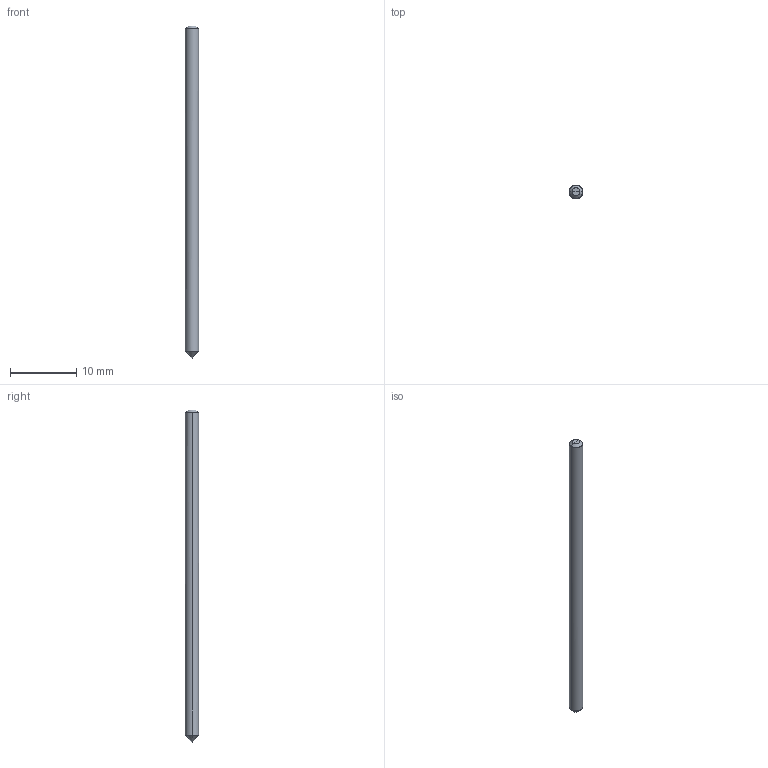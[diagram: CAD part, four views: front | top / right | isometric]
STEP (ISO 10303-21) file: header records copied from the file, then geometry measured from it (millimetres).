
FILE_DESCRIPTION(/* description */ (''),/* implementation_level */ '2;1');
FILE_NAME(/*name*/ '4071-2F-90',/*time_stamp*/'2021-6-30T9:19:9',/*author*/ ('ISBE GmbH'),/*organization*/ ('ISBE GmbH'),/*preprocessor_version*/ 'STEP IO v1.0',/*originating_system*/ '',/*authorisation*/ '');
FILE_SCHEMA (('AUTOMOTIVE_DESIGN'));
Length unit declared in the file: millimetre
Products named in the file (1): Document
Bounding box: 2 x 2 x 50 mm (x, y, z)
Surface area: 320.5 mm2 (no closed solid volume)
Topology: 0 solids, 14 shells, 14 faces, 60 edges, 56 vertices
Faces by surface type: bspline 14
Entity records: 523 total; most frequent: CARTESIAN_POINT 250, VERTEX_POINT 48, EDGE_CURVE 48, ORIENTED_EDGE 48, DIRECTION 16, EDGE_LOOP 14, FACE_OUTER_BOUND 14, ADVANCED_FACE 14
